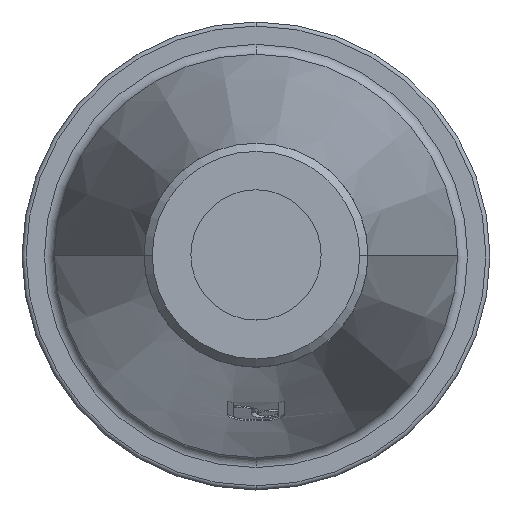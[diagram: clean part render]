
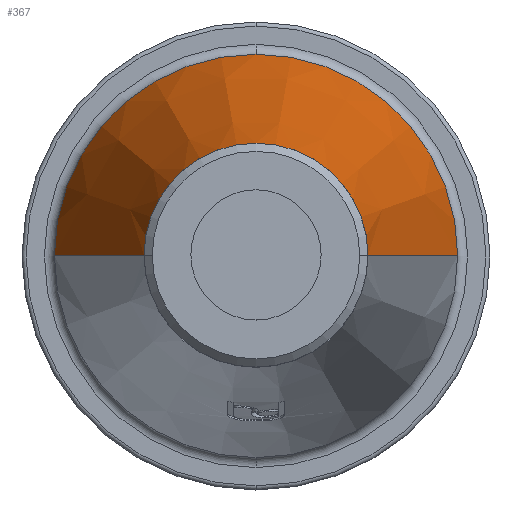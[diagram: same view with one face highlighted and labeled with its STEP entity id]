
A CAD part, top view. The second image highlights one B-rep face of the part: STEP entity #367.
In plain terms, the highlighted conical face has half-angle 12.633 degrees and reference radius 77.092 mm.
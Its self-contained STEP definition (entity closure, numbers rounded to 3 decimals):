
#367=ADVANCED_FACE('',(#725),#726,.T.);
#725=FACE_OUTER_BOUND('',#1108,.T.);
#726=CONICAL_SURFACE('',#1109,77.092,0.22);
#1108=EDGE_LOOP('',(#1939,#1940,#1941,#1942,#1943));
#1109=AXIS2_PLACEMENT_3D('',#1944,#1945,#1946);
#1939=ORIENTED_EDGE('',*,*,#2365,.T.);
#1940=ORIENTED_EDGE('',*,*,#2481,.F.);
#1941=ORIENTED_EDGE('',*,*,#2334,.F.);
#1942=ORIENTED_EDGE('',*,*,#2367,.T.);
#1943=ORIENTED_EDGE('',*,*,#2482,.T.);
#1944=CARTESIAN_POINT('',(435.998,570.253,-45.543));
#1945=DIRECTION('',(0.,0.,-1.0));
#1946=DIRECTION('',(1.0,0.,0.));
#2334=EDGE_CURVE('',#2776,#2778,#2779,.T.);
#2365=EDGE_CURVE('',#2832,#2833,#2834,.T.);
#2367=EDGE_CURVE('',#2776,#2835,#2837,.T.);
#2481=EDGE_CURVE('',#2778,#2833,#3010,.T.);
#2482=EDGE_CURVE('',#2835,#2832,#3011,.T.);
#2776=VERTEX_POINT('',#3470);
#2778=VERTEX_POINT('',#3472);
#2779=CIRCLE('',#3473,99.123);
#2832=VERTEX_POINT('',#3614);
#2833=VERTEX_POINT('',#3615);
#2834=LINE('',#3616,#3617);
#2835=VERTEX_POINT('',#3618);
#2837=LINE('',#3620,#3621);
#3010=CIRCLE('',#4234,99.123);
#3011=CIRCLE('',#4235,55.061);
#3470=CARTESIAN_POINT('',(336.876,570.253,-143.835));
#3472=CARTESIAN_POINT('',(435.998,669.375,-143.835));
#3473=AXIS2_PLACEMENT_3D('',#4543,#4544,#4545);
#3614=CARTESIAN_POINT('',(491.059,570.253,52.75));
#3615=CARTESIAN_POINT('',(535.121,570.253,-143.835));
#3616=CARTESIAN_POINT('',(513.09,570.253,-45.543));
#3617=VECTOR('',#4593,1.0);
#3618=CARTESIAN_POINT('',(380.938,570.253,52.75));
#3620=CARTESIAN_POINT('',(358.907,570.253,-45.543));
#3621=VECTOR('',#4597,1.0);
#4234=AXIS2_PLACEMENT_3D('',#4704,#4705,#4706);
#4235=AXIS2_PLACEMENT_3D('',#4707,#4708,#4709);
#4543=CARTESIAN_POINT('',(435.998,570.253,-143.835));
#4544=DIRECTION('',(0.,0.,-1.0));
#4545=DIRECTION('',(1.0,0.,0.));
#4593=DIRECTION('',(0.219,0.,-0.976));
#4597=DIRECTION('',(0.219,0.,0.976));
#4704=CARTESIAN_POINT('',(435.998,570.253,-143.835));
#4705=DIRECTION('',(0.,0.,-1.0));
#4706=DIRECTION('',(1.0,0.,0.));
#4707=CARTESIAN_POINT('',(435.998,570.253,52.75));
#4708=DIRECTION('',(0.,0.,-1.0));
#4709=DIRECTION('',(1.0,0.,0.));
